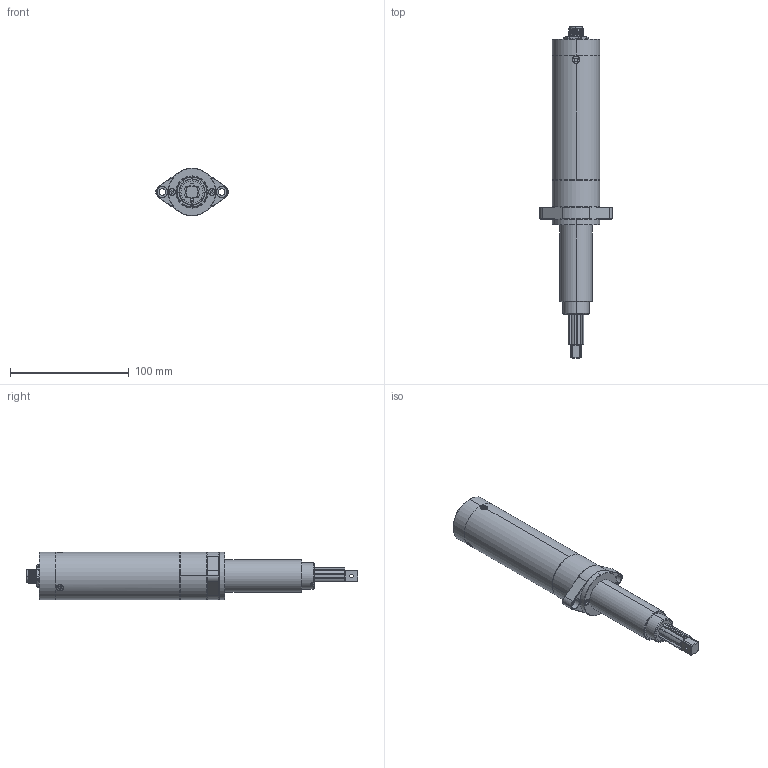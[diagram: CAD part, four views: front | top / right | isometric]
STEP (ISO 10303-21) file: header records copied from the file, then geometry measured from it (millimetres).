
FILE_DESCRIPTION (( 'STEP AP214' ), '1' );
FILE_NAME ('Pluto xxCA-FN2-TA REV1.STEP', '2018-09-06T06:57:04', ( '' ), ( '' ), 'SwSTEP 2.0', 'SolidWorks 2017', '' );
FILE_SCHEMA (( 'AUTOMOTIVE_DESIGN' ));
Length unit declared in the file: millimetre
Products named in the file (1): Pluto xxCA-FN2-TA REV1
Bounding box: 60.98 x 279.5 x 40 mm (x, y, z)
Volume: 100662.1 mm3; surface area: 87286.9 mm2
Topology: 23 solids, 23 shells, 880 faces, 2169 edges, 1337 vertices
Faces by surface type: cylinder 381, plane 275, cone 110, torus 67, bspline 36, sphere 11
Entity records: 47689 total; most frequent: CARTESIAN_POINT 17136, DIRECTION 4425, ORIENTED_EDGE 4252, EDGE_CURVE 2126, AXIS2_PLACEMENT_3D 1765, VERTEX_POINT 1329, EDGE_LOOP 997, CIRCLE 920
